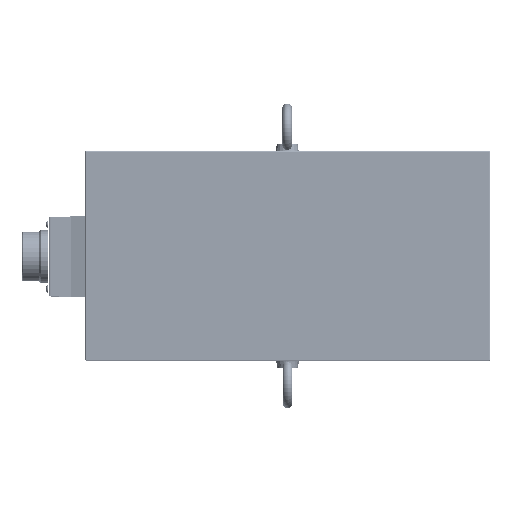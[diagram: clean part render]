
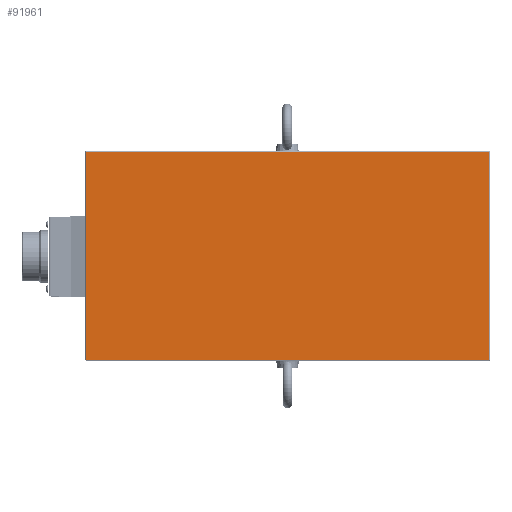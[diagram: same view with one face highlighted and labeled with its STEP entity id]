
A CAD part, top view. The second image highlights one B-rep face of the part: STEP entity #91961.
In plain terms, the highlighted planar face has unit normal (0, 0, 1).
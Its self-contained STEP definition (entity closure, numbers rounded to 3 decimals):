
#91922=CARTESIAN_POINT('',(-72.5,65.,568.));
#91923=DIRECTION('',(0.,1.,0.));
#91924=DIRECTION('',(0.,0.,-1.));
#91925=AXIS2_PLACEMENT_3D('',#91922,#91924,#91923);
#91926=PLANE('',#91925);
#91927=CARTESIAN_POINT('',(-206.5,-69.,568.));
#91928=VERTEX_POINT('',#91927);
#91929=CARTESIAN_POINT('',(-206.5,69.,568.));
#91930=VERTEX_POINT('',#91929);
#91931=CARTESIAN_POINT('',(-206.5,-69.,568.));
#91932=DIRECTION('',(0.,1.,0.));
#91933=VECTOR('',#91932,138.);
#91934=LINE('',#91931,#91933);
#91935=EDGE_CURVE('',#91928,#91930,#91934,.T.);
#91936=ORIENTED_EDGE('E69',*,*,#91935,.T.);
#91937=CARTESIAN_POINT('',(61.5,69.,568.));
#91938=VERTEX_POINT('',#91937);
#91939=CARTESIAN_POINT('',(-206.5,69.,568.));
#91940=DIRECTION('',(1.,0.,0.));
#91941=VECTOR('',#91940,268.);
#91942=LINE('',#91939,#91941);
#91943=EDGE_CURVE('',#91930,#91938,#91942,.T.);
#91944=ORIENTED_EDGE('E74',*,*,#91943,.T.);
#91945=CARTESIAN_POINT('',(61.5,-69.,568.));
#91946=VERTEX_POINT('',#91945);
#91947=CARTESIAN_POINT('',(61.5,69.,568.));
#91948=DIRECTION('',(0.,-1.,0.));
#91949=VECTOR('',#91948,138.);
#91950=LINE('',#91947,#91949);
#91951=EDGE_CURVE('',#91938,#91946,#91950,.T.);
#91952=ORIENTED_EDGE('E76',*,*,#91951,.T.);
#91953=CARTESIAN_POINT('',(61.5,-69.,568.));
#91954=DIRECTION('',(-1.,0.,0.));
#91955=VECTOR('',#91954,268.);
#91956=LINE('',#91953,#91955);
#91957=EDGE_CURVE('',#91946,#91928,#91956,.T.);
#91958=ORIENTED_EDGE('E72',*,*,#91957,.T.);
#91959=EDGE_LOOP('',(#91936,#91944,#91952,#91958));
#91960=FACE_OUTER_BOUND('',#91959,.F.);
#91961=ADVANCED_FACE('F8',(#91960),#91926,.F.);
